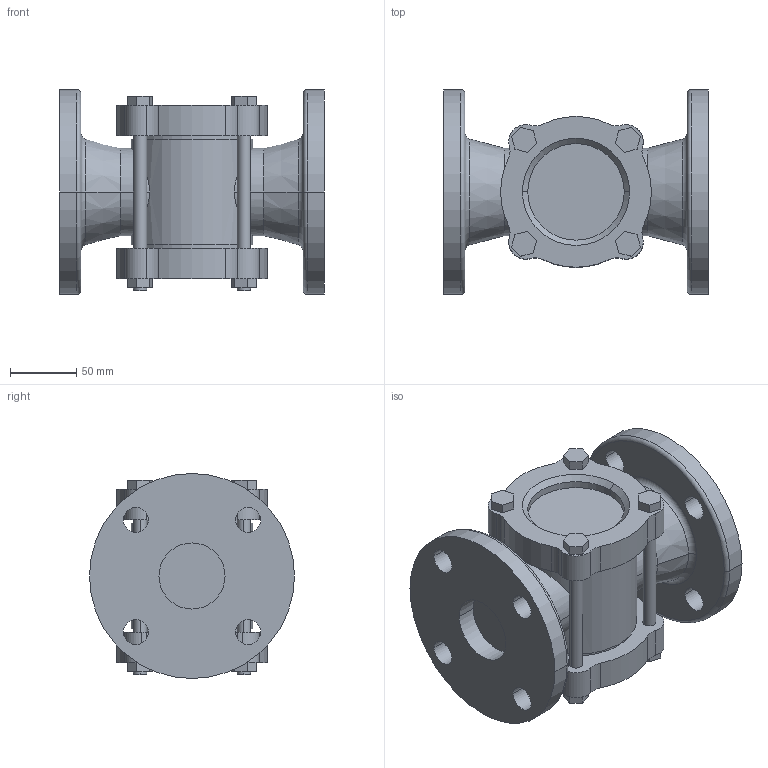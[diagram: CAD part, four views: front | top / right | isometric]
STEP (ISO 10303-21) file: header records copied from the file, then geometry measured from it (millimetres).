
FILE_DESCRIPTION (( 'STEP AP203' ), '1' );
FILE_NAME ('SF-1F 50A.STEP', '2024-09-06T02:37:33', ( '' ), ( '' ), 'SwSTEP 2.0', 'SolidWorks 2024', '' );
FILE_SCHEMA (( 'CONFIG_CONTROL_DESIGN' ));
Length unit declared in the file: millimetre
Products named in the file (1): SF-1F 50A
Bounding box: 200 x 155 x 155 mm (x, y, z)
Volume: 1870310.5 mm3; surface area: 191546.6 mm2
Topology: 1 solids, 1 shells, 186 faces, 470 edges, 308 vertices
Faces by surface type: cylinder 96, plane 74, torus 8, cone 8
Entity records: 6047 total; most frequent: CARTESIAN_POINT 1245, DIRECTION 1048, ORIENTED_EDGE 940, EDGE_CURVE 470, AXIS2_PLACEMENT_3D 399, VERTEX_POINT 308, LINE 250, VECTOR 250
